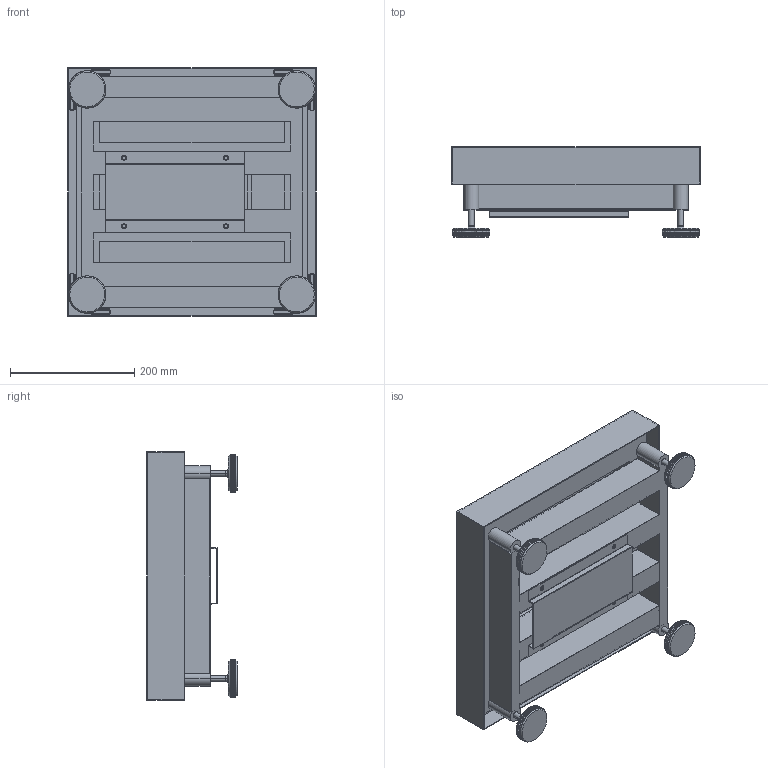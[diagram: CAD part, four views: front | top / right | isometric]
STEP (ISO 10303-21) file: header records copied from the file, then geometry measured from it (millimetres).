
FILE_DESCRIPTION((''),'1');
FILE_NAME('LELA_400x400_60-150_kg.step','2023-02-06T11:24:08',(''),(''),'','','');
FILE_SCHEMA(('AUTOMOTIVE_DESIGN { 1 0 10303 214 1 1 1 1 }'));
Products named in the file (11): LELA 400x400_60-150_kg; LELA cover 01; LELA part 02; LELA part 03; LELA part 05; LELA part 06; LELA load cell 01; LELA part 07; LELA part 08; LELA plate 01; LELA part 10
Assembly tree (21 placements, depth 3):
  LELA 400x400_60-150_kg
    LELA cover 01
    LELA part 02
      LELA part 03  x6
      LELA part 05  x4
      LELA part 06
    LELA load cell 01
    LELA part 07
      LELA part 08
      LELA plate 01
    LELA part 10  x4
Bounding box: 400 x 145 x 400 mm (x, y, z)
Volume: 1917725.8 mm3; surface area: 1917958.8 mm2
Topology: 19 solids, 25 shells, 3322 faces, 8244 edges, 4871 vertices
Faces by surface type: cylinder 1693, plane 1327, sphere 160, torus 86, cone 32, revolution 24
Entity records: 36987 total; most frequent: DIRECTION 6459, CARTESIAN_POINT 5432, ORIENTED_EDGE 5332, AXIS2_PLACEMENT_3D 2712, EDGE_CURVE 2668, VERTEX_POINT 1645, CIRCLE 1625, EDGE_LOOP 1207
